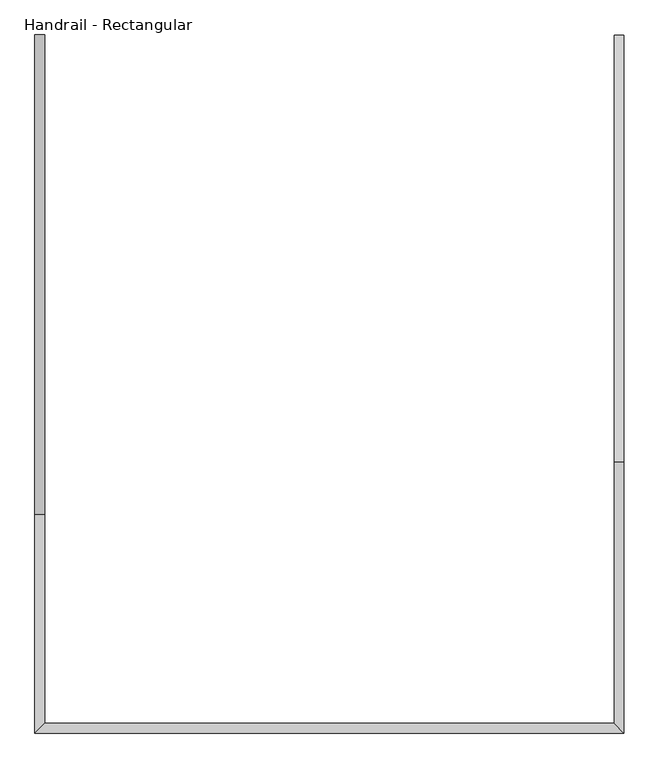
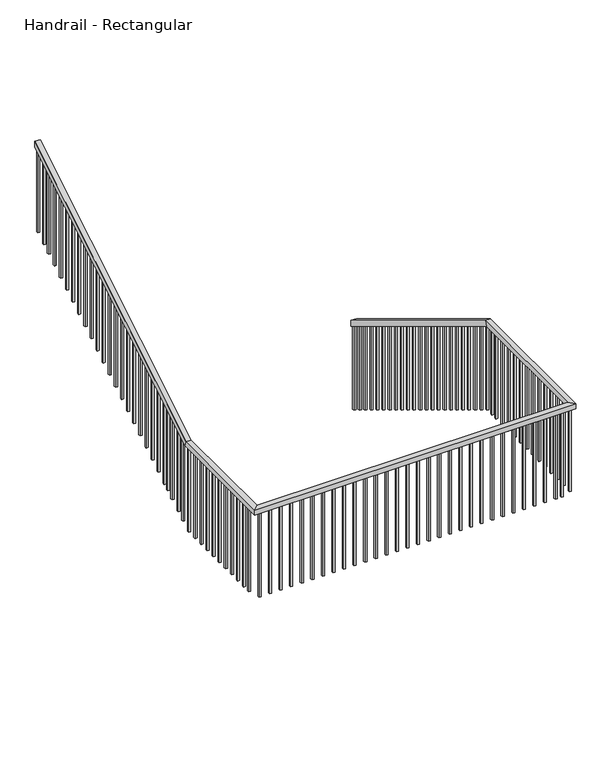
"""IFC4 building model written with IfcOpenShell, lengths in millimetres: railing geometry, Handrail - Rectangular."""

from ifc_helpers import new_model, si_unit, frame, origin, place, context, project, spatial, polyline, outline, extrude, faceted_brep, source, transform, mapped, element, save


def handrail_rectangular_9e17ef01(model_context):
    return source(origin(), model_context, "Body", "SolidModel", [
        faceted_brep([(-22583.8042336, -12204.7769844, 40707.7333333), (-22533.0042336, -12204.7769844, 40707.7333333), (-22533.0042336, -12204.7769844, 40648.3318731), (-22583.8042336, -12204.7769844, 40648.3318731), (-22583.8042336, -14439.9769844, 42062.4), (-22533.0042336, -14439.9769844, 42062.4), (-22533.0042336, -14454.1693938, 42011.6), (-22583.8042336, -14454.1693938, 42011.6), (-22583.8042336, -15811.5769844, 42062.4), (-22533.0042336, -15862.3769844, 42062.4), (-22533.0042336, -15862.3769844, 42011.6), (-22583.8042336, -15811.5769844, 42011.6), (-25569.8917336, -15811.5769844, 42062.4), (-25620.6917336, -15862.3769844, 42062.4), (-25620.6917336, -15862.3769844, 42011.6), (-25569.8917336, -15811.5769844, 42011.6), (-25569.8917336, -14719.3769844, 42062.4), (-25620.6917336, -14719.3769844, 42062.4), (-25620.6917336, -14705.184575, 42011.6), (-25569.8917336, -14705.184575, 42011.6), (-25569.8917336, -12204.7769844, 43586.4), (-25569.8917336, -12204.7769844, 43526.9985397), (-25620.6917336, -12204.7769844, 43526.9985397), (-25620.6917336, -12204.7769844, 43586.4)], [[[0, 1, 2, 3]], [[1, 0, 4, 5]], [[2, 1, 5, 6]], [[3, 2, 6, 7]], [[0, 3, 7, 4]], [[5, 4, 8, 9]], [[6, 5, 9, 10]], [[7, 6, 10, 11]], [[4, 7, 11, 8]], [[9, 8, 12, 13]], [[10, 9, 13, 14]], [[11, 10, 14, 15]], [[8, 11, 15, 12]], [[13, 12, 16, 17]], [[14, 13, 17, 18]], [[15, 14, 18, 19]], [[12, 15, 19, 16]], [[20, 21, 22, 23]], [[17, 16, 20, 23]], [[18, 17, 23, 22]], [[19, 18, 22, 21]], [[16, 19, 21, 20]]]),
        extrude(outline(polyline([(-12204.7769844, 42666.2272727), (-12223.8269844, 42666.2272727), (-12223.8269844, 43515.4530852), (-12204.7769844, 43526.9985397), (-12204.7769844, 42666.2272727)])), frame((-25604.8167336, 0.0, 0.0), z_axis=(1.0, 0.0, 0.0), x_axis=(0.0, 1.0, 0.0)), (0.0, 0.0, 1.0), 19.05),
        extrude(outline(polyline([(-12306.3769844, 42604.6515152), (-12325.4269844, 42604.6515152), (-12325.4269844, 43453.8773276), (-12306.3769844, 43465.4227822), (-12306.3769844, 42604.6515152)])), frame((-25604.8167336, 0.0, 0.0), z_axis=(1.0, 0.0, 0.0), x_axis=(0.0, 1.0, 0.0)), (0.0, 0.0, 1.0), 19.05),
        extrude(outline(polyline([(-12385.7519844, 42556.5454545), (-12404.8019844, 42556.5454545), (-12404.8019844, 43405.771267), (-12385.7519844, 43417.3167216), (-12385.7519844, 42556.5454545)])), frame((-25604.8167336, 0.0, 0.0), z_axis=(1.0, 0.0, 0.0), x_axis=(0.0, 1.0, 0.0)), (0.0, 0.0, 1.0), 19.05),
        extrude(outline(polyline([(-12484.1769844, 42496.8939394), (-12503.2269844, 42496.8939394), (-12503.2269844, 43346.1197519), (-12484.1769844, 43357.6652064), (-12484.1769844, 42496.8939394)])), frame((-25604.8167336, 0.0, 0.0), z_axis=(1.0, 0.0, 0.0), x_axis=(0.0, 1.0, 0.0)), (0.0, 0.0, 1.0), 19.05),
        extrude(outline(polyline([(-12585.7769844, 42435.3181818), (-12604.8269844, 42435.3181818), (-12604.8269844, 43284.5439943), (-12585.7769844, 43296.0894488), (-12585.7769844, 42435.3181818)])), frame((-25604.8167336, 0.0, 0.0), z_axis=(1.0, 0.0, 0.0), x_axis=(0.0, 1.0, 0.0)), (0.0, 0.0, 1.0), 19.05),
        extrude(outline(polyline([(-12687.3769844, 42373.7424242), (-12706.4269844, 42373.7424242), (-12706.4269844, 43222.9682367), (-12687.3769844, 43234.5136913), (-12687.3769844, 42373.7424242)])), frame((-25604.8167336, 0.0, 0.0), z_axis=(1.0, 0.0, 0.0), x_axis=(0.0, 1.0, 0.0)), (0.0, 0.0, 1.0), 19.05),
        extrude(outline(polyline([(-12788.9769844, 42312.1666667), (-12808.0269844, 42312.1666667), (-12808.0269844, 43161.3924791), (-12788.9769844, 43172.9379337), (-12788.9769844, 42312.1666667)])), frame((-25604.8167336, 0.0, 0.0), z_axis=(1.0, 0.0, 0.0), x_axis=(0.0, 1.0, 0.0)), (0.0, 0.0, 1.0), 19.05),
        extrude(outline(polyline([(-12890.5769844, 42250.5909091), (-12909.6269844, 42250.5909091), (-12909.6269844, 43099.8167216), (-12890.5769844, 43111.3621761), (-12890.5769844, 42250.5909091)])), frame((-25604.8167336, 0.0, 0.0), z_axis=(1.0, 0.0, 0.0), x_axis=(0.0, 1.0, 0.0)), (0.0, 0.0, 1.0), 19.05),
        extrude(outline(polyline([(-12992.1769844, 42189.0151515), (-13011.2269844, 42189.0151515), (-13011.2269844, 43038.240964), (-12992.1769844, 43049.7864185), (-12992.1769844, 42189.0151515)])), frame((-25604.8167336, 0.0, 0.0), z_axis=(1.0, 0.0, 0.0), x_axis=(0.0, 1.0, 0.0)), (0.0, 0.0, 1.0), 19.05),
        extrude(outline(polyline([(-13093.7769844, 42127.4393939), (-13112.8269844, 42127.4393939), (-13112.8269844, 42976.6652064), (-13093.7769844, 42988.210661), (-13093.7769844, 42127.4393939)])), frame((-25604.8167336, 0.0, 0.0), z_axis=(1.0, 0.0, 0.0), x_axis=(0.0, 1.0, 0.0)), (0.0, 0.0, 1.0), 19.05),
        extrude(outline(polyline([(-13195.3769844, 42065.8636364), (-13214.4269844, 42065.8636364), (-13214.4269844, 42915.0894488), (-13195.3769844, 42926.6349034), (-13195.3769844, 42065.8636364)])), frame((-25604.8167336, 0.0, 0.0), z_axis=(1.0, 0.0, 0.0), x_axis=(0.0, 1.0, 0.0)), (0.0, 0.0, 1.0), 19.05),
        extrude(outline(polyline([(-13296.9769844, 42004.2878788), (-13316.0269844, 42004.2878788), (-13316.0269844, 42853.5136913), (-13296.9769844, 42865.0591458), (-13296.9769844, 42004.2878788)])), frame((-25604.8167336, 0.0, 0.0), z_axis=(1.0, 0.0, 0.0), x_axis=(0.0, 1.0, 0.0)), (0.0, 0.0, 1.0), 19.05),
        extrude(outline(polyline([(-13398.5769844, 41942.7121212), (-13417.6269844, 41942.7121212), (-13417.6269844, 42791.9379337), (-13398.5769844, 42803.4833882), (-13398.5769844, 41942.7121212)])), frame((-25604.8167336, 0.0, 0.0), z_axis=(1.0, 0.0, 0.0), x_axis=(0.0, 1.0, 0.0)), (0.0, 0.0, 1.0), 19.05),
        extrude(outline(polyline([(-13500.1769844, 41881.1363636), (-13519.2269844, 41881.1363636), (-13519.2269844, 42730.3621761), (-13500.1769844, 42741.9076307), (-13500.1769844, 41881.1363636)])), frame((-25604.8167336, 0.0, 0.0), z_axis=(1.0, 0.0, 0.0), x_axis=(0.0, 1.0, 0.0)), (0.0, 0.0, 1.0), 19.05),
        extrude(outline(polyline([(-13601.7769844, 41819.5606061), (-13620.8269844, 41819.5606061), (-13620.8269844, 42668.7864185), (-13601.7769844, 42680.3318731), (-13601.7769844, 41819.5606061)])), frame((-25604.8167336, 0.0, 0.0), z_axis=(1.0, 0.0, 0.0), x_axis=(0.0, 1.0, 0.0)), (0.0, 0.0, 1.0), 19.05),
        extrude(outline(polyline([(-13703.3769844, 41757.9848485), (-13722.4269844, 41757.9848485), (-13722.4269844, 42607.210661), (-13703.3769844, 42618.7561155), (-13703.3769844, 41757.9848485)])), frame((-25604.8167336, 0.0, 0.0), z_axis=(1.0, 0.0, 0.0), x_axis=(0.0, 1.0, 0.0)), (0.0, 0.0, 1.0), 19.05),
        extrude(outline(polyline([(-13804.9769844, 41696.4090909), (-13824.0269844, 41696.4090909), (-13824.0269844, 42545.6349034), (-13804.9769844, 42557.1803579), (-13804.9769844, 41696.4090909)])), frame((-25604.8167336, 0.0, 0.0), z_axis=(1.0, 0.0, 0.0), x_axis=(0.0, 1.0, 0.0)), (0.0, 0.0, 1.0), 19.05),
        extrude(outline(polyline([(-13906.5769844, 41634.8333333), (-13925.6269844, 41634.8333333), (-13925.6269844, 42484.0591458), (-13906.5769844, 42495.6046004), (-13906.5769844, 41634.8333333)])), frame((-25604.8167336, 0.0, 0.0), z_axis=(1.0, 0.0, 0.0), x_axis=(0.0, 1.0, 0.0)), (0.0, 0.0, 1.0), 19.05),
        extrude(outline(polyline([(-14008.1769844, 41573.2575758), (-14027.2269844, 41573.2575758), (-14027.2269844, 42422.4833882), (-14008.1769844, 42434.0288428), (-14008.1769844, 41573.2575758)])), frame((-25604.8167336, 0.0, 0.0), z_axis=(1.0, 0.0, 0.0), x_axis=(0.0, 1.0, 0.0)), (0.0, 0.0, 1.0), 19.05),
        extrude(outline(polyline([(-14109.7769844, 41511.6818182), (-14128.8269844, 41511.6818182), (-14128.8269844, 42360.9076307), (-14109.7769844, 42372.4530852), (-14109.7769844, 41511.6818182)])), frame((-25604.8167336, 0.0, 0.0), z_axis=(1.0, 0.0, 0.0), x_axis=(0.0, 1.0, 0.0)), (0.0, 0.0, 1.0), 19.05),
        extrude(outline(polyline([(-14211.3769844, 41450.1060606), (-14230.4269844, 41450.1060606), (-14230.4269844, 42299.3318731), (-14211.3769844, 42310.8773276), (-14211.3769844, 41450.1060606)])), frame((-25604.8167336, 0.0, 0.0), z_axis=(1.0, 0.0, 0.0), x_axis=(0.0, 1.0, 0.0)), (0.0, 0.0, 1.0), 19.05),
        extrude(outline(polyline([(-14312.9769844, 41388.530303), (-14332.0269844, 41388.530303), (-14332.0269844, 42237.7561155), (-14312.9769844, 42249.30157), (-14312.9769844, 41388.530303)])), frame((-25604.8167336, 0.0, 0.0), z_axis=(1.0, 0.0, 0.0), x_axis=(0.0, 1.0, 0.0)), (0.0, 0.0, 1.0), 19.05),
        extrude(outline(polyline([(-14366.9519844, 41355.8181818), (-14386.0019844, 41355.8181818), (-14386.0019844, 42205.0439943), (-14366.9519844, 42216.5894488), (-14366.9519844, 41355.8181818)])), frame((-25604.8167336, 0.0, 0.0), z_axis=(1.0, 0.0, 0.0), x_axis=(0.0, 1.0, 0.0)), (0.0, 0.0, 1.0), 19.05),
        extrude(outline(polyline([(-14439.9769844, 41311.5606061), (-14459.0269844, 41311.5606061), (-14459.0269844, 42160.7864185), (-14439.9769844, 42172.3318731), (-14439.9769844, 41311.5606061)])), frame((-25604.8167336, 0.0, 0.0), z_axis=(1.0, 0.0, 0.0), x_axis=(0.0, 1.0, 0.0)), (0.0, 0.0, 1.0), 19.05),
        extrude(outline(polyline([(-14541.5769844, 41249.9848485), (-14560.6269844, 41249.9848485), (-14560.6269844, 42099.210661), (-14541.5769844, 42110.7561155), (-14541.5769844, 41249.9848485)])), frame((-25604.8167336, 0.0, 0.0), z_axis=(1.0, 0.0, 0.0), x_axis=(0.0, 1.0, 0.0)), (0.0, 0.0, 1.0), 19.05),
        extrude(outline(polyline([(-14620.9519844, 41201.8787879), (-14640.0019844, 41201.8787879), (-14640.0019844, 42051.1046004), (-14620.9519844, 42062.6500549), (-14620.9519844, 41201.8787879)])), frame((-25604.8167336, 0.0, 0.0), z_axis=(1.0, 0.0, 0.0), x_axis=(0.0, 1.0, 0.0)), (0.0, 0.0, 1.0), 19.05),
        extrude(outline(polyline([(-25604.8167336, -14738.4269844), (-25604.8167336, -14719.3769844), (-25585.7667336, -14719.3769844), (-25585.7667336, -14738.4269844), (-25604.8167336, -14738.4269844)])), frame((0.0, 0.0, 41148.0), z_axis=(0.0, 0.0, 1.0), x_axis=(1.0, 0.0, 0.0)), (0.0, 0.0, 1.0), 863.6),
        extrude(outline(polyline([(-25604.8167336, -14840.0269844), (-25604.8167336, -14820.9769844), (-25585.7667336, -14820.9769844), (-25585.7667336, -14840.0269844), (-25604.8167336, -14840.0269844)])), frame((0.0, 0.0, 41148.0), z_axis=(0.0, 0.0, 1.0), x_axis=(1.0, 0.0, 0.0)), (0.0, 0.0, 1.0), 863.6),
        extrude(outline(polyline([(-25604.8167336, -14941.6269844), (-25604.8167336, -14922.5769844), (-25585.7667336, -14922.5769844), (-25585.7667336, -14941.6269844), (-25604.8167336, -14941.6269844)])), frame((0.0, 0.0, 41148.0), z_axis=(0.0, 0.0, 1.0), x_axis=(1.0, 0.0, 0.0)), (0.0, 0.0, 1.0), 863.6),
        extrude(outline(polyline([(-25604.8167336, -15043.2269844), (-25604.8167336, -15024.1769844), (-25585.7667336, -15024.1769844), (-25585.7667336, -15043.2269844), (-25604.8167336, -15043.2269844)])), frame((0.0, 0.0, 41148.0), z_axis=(0.0, 0.0, 1.0), x_axis=(1.0, 0.0, 0.0)), (0.0, 0.0, 1.0), 863.6),
        extrude(outline(polyline([(-25604.8167336, -15144.8269844), (-25604.8167336, -15125.7769844), (-25585.7667336, -15125.7769844), (-25585.7667336, -15144.8269844), (-25604.8167336, -15144.8269844)])), frame((0.0, 0.0, 41148.0), z_axis=(0.0, 0.0, 1.0), x_axis=(1.0, 0.0, 0.0)), (0.0, 0.0, 1.0), 863.6),
        extrude(outline(polyline([(-25604.8167336, -15246.4269844), (-25604.8167336, -15227.3769844), (-25585.7667336, -15227.3769844), (-25585.7667336, -15246.4269844), (-25604.8167336, -15246.4269844)])), frame((0.0, 0.0, 41148.0), z_axis=(0.0, 0.0, 1.0), x_axis=(1.0, 0.0, 0.0)), (0.0, 0.0, 1.0), 863.6),
        extrude(outline(polyline([(-25604.8167336, -15348.0269844), (-25604.8167336, -15328.9769844), (-25585.7667336, -15328.9769844), (-25585.7667336, -15348.0269844), (-25604.8167336, -15348.0269844)])), frame((0.0, 0.0, 41148.0), z_axis=(0.0, 0.0, 1.0), x_axis=(1.0, 0.0, 0.0)), (0.0, 0.0, 1.0), 863.6),
        extrude(outline(polyline([(-25604.8167336, -15449.6269844), (-25604.8167336, -15430.5769844), (-25585.7667336, -15430.5769844), (-25585.7667336, -15449.6269844), (-25604.8167336, -15449.6269844)])), frame((0.0, 0.0, 41148.0), z_axis=(0.0, 0.0, 1.0), x_axis=(1.0, 0.0, 0.0)), (0.0, 0.0, 1.0), 863.6),
        extrude(outline(polyline([(-25604.8167336, -15551.2269844), (-25604.8167336, -15532.1769844), (-25585.7667336, -15532.1769844), (-25585.7667336, -15551.2269844), (-25604.8167336, -15551.2269844)])), frame((0.0, 0.0, 41148.0), z_axis=(0.0, 0.0, 1.0), x_axis=(1.0, 0.0, 0.0)), (0.0, 0.0, 1.0), 863.6),
        extrude(outline(polyline([(-25604.8167336, -15652.8269844), (-25604.8167336, -15633.7769844), (-25585.7667336, -15633.7769844), (-25585.7667336, -15652.8269844), (-25604.8167336, -15652.8269844)])), frame((0.0, 0.0, 41148.0), z_axis=(0.0, 0.0, 1.0), x_axis=(1.0, 0.0, 0.0)), (0.0, 0.0, 1.0), 863.6),
        extrude(outline(polyline([(-25604.8167336, -15732.2019844), (-25604.8167336, -15713.1519844), (-25585.7667336, -15713.1519844), (-25585.7667336, -15732.2019844), (-25604.8167336, -15732.2019844)])), frame((0.0, 0.0, 41148.0), z_axis=(0.0, 0.0, 1.0), x_axis=(1.0, 0.0, 0.0)), (0.0, 0.0, 1.0), 863.6),
        extrude(outline(polyline([(-25550.8417336, -15846.5019844), (-25569.8917336, -15846.5019844), (-25569.8917336, -15827.4519844), (-25550.8417336, -15827.4519844), (-25550.8417336, -15846.5019844)])), frame((0.0, 0.0, 41148.0), z_axis=(0.0, 0.0, 1.0), x_axis=(1.0, 0.0, 0.0)), (0.0, 0.0, 1.0), 863.6),
        extrude(outline(polyline([(-25449.2417336, -15846.5019844), (-25468.2917336, -15846.5019844), (-25468.2917336, -15827.4519844), (-25449.2417336, -15827.4519844), (-25449.2417336, -15846.5019844)])), frame((0.0, 0.0, 41148.0), z_axis=(0.0, 0.0, 1.0), x_axis=(1.0, 0.0, 0.0)), (0.0, 0.0, 1.0), 863.6),
        extrude(outline(polyline([(-25347.6417336, -15846.5019844), (-25366.6917336, -15846.5019844), (-25366.6917336, -15827.4519844), (-25347.6417336, -15827.4519844), (-25347.6417336, -15846.5019844)])), frame((0.0, 0.0, 41148.0), z_axis=(0.0, 0.0, 1.0), x_axis=(1.0, 0.0, 0.0)), (0.0, 0.0, 1.0), 863.6),
        extrude(outline(polyline([(-25246.0417336, -15846.5019844), (-25265.0917336, -15846.5019844), (-25265.0917336, -15827.4519844), (-25246.0417336, -15827.4519844), (-25246.0417336, -15846.5019844)])), frame((0.0, 0.0, 41148.0), z_axis=(0.0, 0.0, 1.0), x_axis=(1.0, 0.0, 0.0)), (0.0, 0.0, 1.0), 863.6),
        extrude(outline(polyline([(-25144.4417336, -15846.5019844), (-25163.4917336, -15846.5019844), (-25163.4917336, -15827.4519844), (-25144.4417336, -15827.4519844), (-25144.4417336, -15846.5019844)])), frame((0.0, 0.0, 41148.0), z_axis=(0.0, 0.0, 1.0), x_axis=(1.0, 0.0, 0.0)), (0.0, 0.0, 1.0), 863.6),
        extrude(outline(polyline([(-25042.8417336, -15846.5019844), (-25061.8917336, -15846.5019844), (-25061.8917336, -15827.4519844), (-25042.8417336, -15827.4519844), (-25042.8417336, -15846.5019844)])), frame((0.0, 0.0, 41148.0), z_axis=(0.0, 0.0, 1.0), x_axis=(1.0, 0.0, 0.0)), (0.0, 0.0, 1.0), 863.6),
        extrude(outline(polyline([(-24941.2417336, -15846.5019844), (-24960.2917336, -15846.5019844), (-24960.2917336, -15827.4519844), (-24941.2417336, -15827.4519844), (-24941.2417336, -15846.5019844)])), frame((0.0, 0.0, 41148.0), z_axis=(0.0, 0.0, 1.0), x_axis=(1.0, 0.0, 0.0)), (0.0, 0.0, 1.0), 863.6),
        extrude(outline(polyline([(-24839.6417336, -15846.5019844), (-24858.6917336, -15846.5019844), (-24858.6917336, -15827.4519844), (-24839.6417336, -15827.4519844), (-24839.6417336, -15846.5019844)])), frame((0.0, 0.0, 41148.0), z_axis=(0.0, 0.0, 1.0), x_axis=(1.0, 0.0, 0.0)), (0.0, 0.0, 1.0), 863.6),
        extrude(outline(polyline([(-24738.0417336, -15846.5019844), (-24757.0917336, -15846.5019844), (-24757.0917336, -15827.4519844), (-24738.0417336, -15827.4519844), (-24738.0417336, -15846.5019844)])), frame((0.0, 0.0, 41148.0), z_axis=(0.0, 0.0, 1.0), x_axis=(1.0, 0.0, 0.0)), (0.0, 0.0, 1.0), 863.6),
        extrude(outline(polyline([(-24636.4417336, -15846.5019844), (-24655.4917336, -15846.5019844), (-24655.4917336, -15827.4519844), (-24636.4417336, -15827.4519844), (-24636.4417336, -15846.5019844)])), frame((0.0, 0.0, 41148.0), z_axis=(0.0, 0.0, 1.0), x_axis=(1.0, 0.0, 0.0)), (0.0, 0.0, 1.0), 863.6),
        extrude(outline(polyline([(-24534.8417336, -15846.5019844), (-24553.8917336, -15846.5019844), (-24553.8917336, -15827.4519844), (-24534.8417336, -15827.4519844), (-24534.8417336, -15846.5019844)])), frame((0.0, 0.0, 41148.0), z_axis=(0.0, 0.0, 1.0), x_axis=(1.0, 0.0, 0.0)), (0.0, 0.0, 1.0), 863.6),
        extrude(outline(polyline([(-24433.2417336, -15846.5019844), (-24452.2917336, -15846.5019844), (-24452.2917336, -15827.4519844), (-24433.2417336, -15827.4519844), (-24433.2417336, -15846.5019844)])), frame((0.0, 0.0, 41148.0), z_axis=(0.0, 0.0, 1.0), x_axis=(1.0, 0.0, 0.0)), (0.0, 0.0, 1.0), 863.6),
        extrude(outline(polyline([(-24331.6417336, -15846.5019844), (-24350.6917336, -15846.5019844), (-24350.6917336, -15827.4519844), (-24331.6417336, -15827.4519844), (-24331.6417336, -15846.5019844)])), frame((0.0, 0.0, 41148.0), z_axis=(0.0, 0.0, 1.0), x_axis=(1.0, 0.0, 0.0)), (0.0, 0.0, 1.0), 863.6),
        extrude(outline(polyline([(-24230.0417336, -15846.5019844), (-24249.0917336, -15846.5019844), (-24249.0917336, -15827.4519844), (-24230.0417336, -15827.4519844), (-24230.0417336, -15846.5019844)])), frame((0.0, 0.0, 41148.0), z_axis=(0.0, 0.0, 1.0), x_axis=(1.0, 0.0, 0.0)), (0.0, 0.0, 1.0), 863.6),
        extrude(outline(polyline([(-24128.4417336, -15846.5019844), (-24147.4917336, -15846.5019844), (-24147.4917336, -15827.4519844), (-24128.4417336, -15827.4519844), (-24128.4417336, -15846.5019844)])), frame((0.0, 0.0, 41148.0), z_axis=(0.0, 0.0, 1.0), x_axis=(1.0, 0.0, 0.0)), (0.0, 0.0, 1.0), 863.6),
        extrude(outline(polyline([(-24026.8417336, -15846.5019844), (-24045.8917336, -15846.5019844), (-24045.8917336, -15827.4519844), (-24026.8417336, -15827.4519844), (-24026.8417336, -15846.5019844)])), frame((0.0, 0.0, 41148.0), z_axis=(0.0, 0.0, 1.0), x_axis=(1.0, 0.0, 0.0)), (0.0, 0.0, 1.0), 863.6),
        extrude(outline(polyline([(-23925.2417336, -15846.5019844), (-23944.2917336, -15846.5019844), (-23944.2917336, -15827.4519844), (-23925.2417336, -15827.4519844), (-23925.2417336, -15846.5019844)])), frame((0.0, 0.0, 41148.0), z_axis=(0.0, 0.0, 1.0), x_axis=(1.0, 0.0, 0.0)), (0.0, 0.0, 1.0), 863.6),
        extrude(outline(polyline([(-23823.6417336, -15846.5019844), (-23842.6917336, -15846.5019844), (-23842.6917336, -15827.4519844), (-23823.6417336, -15827.4519844), (-23823.6417336, -15846.5019844)])), frame((0.0, 0.0, 41148.0), z_axis=(0.0, 0.0, 1.0), x_axis=(1.0, 0.0, 0.0)), (0.0, 0.0, 1.0), 863.6),
        extrude(outline(polyline([(-23722.0417336, -15846.5019844), (-23741.0917336, -15846.5019844), (-23741.0917336, -15827.4519844), (-23722.0417336, -15827.4519844), (-23722.0417336, -15846.5019844)])), frame((0.0, 0.0, 41148.0), z_axis=(0.0, 0.0, 1.0), x_axis=(1.0, 0.0, 0.0)), (0.0, 0.0, 1.0), 863.6),
        extrude(outline(polyline([(-23620.4417336, -15846.5019844), (-23639.4917336, -15846.5019844), (-23639.4917336, -15827.4519844), (-23620.4417336, -15827.4519844), (-23620.4417336, -15846.5019844)])), frame((0.0, 0.0, 41148.0), z_axis=(0.0, 0.0, 1.0), x_axis=(1.0, 0.0, 0.0)), (0.0, 0.0, 1.0), 863.6),
        extrude(outline(polyline([(-23518.8417336, -15846.5019844), (-23537.8917336, -15846.5019844), (-23537.8917336, -15827.4519844), (-23518.8417336, -15827.4519844), (-23518.8417336, -15846.5019844)])), frame((0.0, 0.0, 41148.0), z_axis=(0.0, 0.0, 1.0), x_axis=(1.0, 0.0, 0.0)), (0.0, 0.0, 1.0), 863.6),
        extrude(outline(polyline([(-23417.2417336, -15846.5019844), (-23436.2917336, -15846.5019844), (-23436.2917336, -15827.4519844), (-23417.2417336, -15827.4519844), (-23417.2417336, -15846.5019844)])), frame((0.0, 0.0, 41148.0), z_axis=(0.0, 0.0, 1.0), x_axis=(1.0, 0.0, 0.0)), (0.0, 0.0, 1.0), 863.6),
        extrude(outline(polyline([(-23315.6417336, -15846.5019844), (-23334.6917336, -15846.5019844), (-23334.6917336, -15827.4519844), (-23315.6417336, -15827.4519844), (-23315.6417336, -15846.5019844)])), frame((0.0, 0.0, 41148.0), z_axis=(0.0, 0.0, 1.0), x_axis=(1.0, 0.0, 0.0)), (0.0, 0.0, 1.0), 863.6),
        extrude(outline(polyline([(-23214.0417336, -15846.5019844), (-23233.0917336, -15846.5019844), (-23233.0917336, -15827.4519844), (-23214.0417336, -15827.4519844), (-23214.0417336, -15846.5019844)])), frame((0.0, 0.0, 41148.0), z_axis=(0.0, 0.0, 1.0), x_axis=(1.0, 0.0, 0.0)), (0.0, 0.0, 1.0), 863.6),
        extrude(outline(polyline([(-23112.4417336, -15846.5019844), (-23131.4917336, -15846.5019844), (-23131.4917336, -15827.4519844), (-23112.4417336, -15827.4519844), (-23112.4417336, -15846.5019844)])), frame((0.0, 0.0, 41148.0), z_axis=(0.0, 0.0, 1.0), x_axis=(1.0, 0.0, 0.0)), (0.0, 0.0, 1.0), 863.6),
        extrude(outline(polyline([(-23010.8417336, -15846.5019844), (-23029.8917336, -15846.5019844), (-23029.8917336, -15827.4519844), (-23010.8417336, -15827.4519844), (-23010.8417336, -15846.5019844)])), frame((0.0, 0.0, 41148.0), z_axis=(0.0, 0.0, 1.0), x_axis=(1.0, 0.0, 0.0)), (0.0, 0.0, 1.0), 863.6),
        extrude(outline(polyline([(-22909.2417336, -15846.5019844), (-22928.2917336, -15846.5019844), (-22928.2917336, -15827.4519844), (-22909.2417336, -15827.4519844), (-22909.2417336, -15846.5019844)])), frame((0.0, 0.0, 41148.0), z_axis=(0.0, 0.0, 1.0), x_axis=(1.0, 0.0, 0.0)), (0.0, 0.0, 1.0), 863.6),
        extrude(outline(polyline([(-22807.6417336, -15846.5019844), (-22826.6917336, -15846.5019844), (-22826.6917336, -15827.4519844), (-22807.6417336, -15827.4519844), (-22807.6417336, -15846.5019844)])), frame((0.0, 0.0, 41148.0), z_axis=(0.0, 0.0, 1.0), x_axis=(1.0, 0.0, 0.0)), (0.0, 0.0, 1.0), 863.6),
        extrude(outline(polyline([(-22706.0417336, -15846.5019844), (-22725.0917336, -15846.5019844), (-22725.0917336, -15827.4519844), (-22706.0417336, -15827.4519844), (-22706.0417336, -15846.5019844)])), frame((0.0, 0.0, 41148.0), z_axis=(0.0, 0.0, 1.0), x_axis=(1.0, 0.0, 0.0)), (0.0, 0.0, 1.0), 863.6),
        extrude(outline(polyline([(-22644.9229836, -15846.5019844), (-22663.9729836, -15846.5019844), (-22663.9729836, -15827.4519844), (-22644.9229836, -15827.4519844), (-22644.9229836, -15846.5019844)])), frame((0.0, 0.0, 41148.0), z_axis=(0.0, 0.0, 1.0), x_axis=(1.0, 0.0, 0.0)), (0.0, 0.0, 1.0), 863.6),
        extrude(outline(polyline([(-22548.8792336, -15792.5269844), (-22548.8792336, -15811.5769844), (-22567.9292336, -15811.5769844), (-22567.9292336, -15792.5269844), (-22548.8792336, -15792.5269844)])), frame((0.0, 0.0, 41148.0), z_axis=(0.0, 0.0, 1.0), x_axis=(1.0, 0.0, 0.0)), (0.0, 0.0, 1.0), 863.6),
        extrude(outline(polyline([(-22548.8792336, -15690.9269844), (-22548.8792336, -15709.9769844), (-22567.9292336, -15709.9769844), (-22567.9292336, -15690.9269844), (-22548.8792336, -15690.9269844)])), frame((0.0, 0.0, 41148.0), z_axis=(0.0, 0.0, 1.0), x_axis=(1.0, 0.0, 0.0)), (0.0, 0.0, 1.0), 863.6),
        extrude(outline(polyline([(-22548.8792336, -15589.3269844), (-22548.8792336, -15608.3769844), (-22567.9292336, -15608.3769844), (-22567.9292336, -15589.3269844), (-22548.8792336, -15589.3269844)])), frame((0.0, 0.0, 41148.0), z_axis=(0.0, 0.0, 1.0), x_axis=(1.0, 0.0, 0.0)), (0.0, 0.0, 1.0), 863.6),
        extrude(outline(polyline([(-22548.8792336, -15487.7269844), (-22548.8792336, -15506.7769844), (-22567.9292336, -15506.7769844), (-22567.9292336, -15487.7269844), (-22548.8792336, -15487.7269844)])), frame((0.0, 0.0, 41148.0), z_axis=(0.0, 0.0, 1.0), x_axis=(1.0, 0.0, 0.0)), (0.0, 0.0, 1.0), 863.6),
        extrude(outline(polyline([(-22548.8792336, -15386.1269844), (-22548.8792336, -15405.1769844), (-22567.9292336, -15405.1769844), (-22567.9292336, -15386.1269844), (-22548.8792336, -15386.1269844)])), frame((0.0, 0.0, 41148.0), z_axis=(0.0, 0.0, 1.0), x_axis=(1.0, 0.0, 0.0)), (0.0, 0.0, 1.0), 863.6),
        extrude(outline(polyline([(-22548.8792336, -15284.5269844), (-22548.8792336, -15303.5769844), (-22567.9292336, -15303.5769844), (-22567.9292336, -15284.5269844), (-22548.8792336, -15284.5269844)])), frame((0.0, 0.0, 41148.0), z_axis=(0.0, 0.0, 1.0), x_axis=(1.0, 0.0, 0.0)), (0.0, 0.0, 1.0), 863.6),
        extrude(outline(polyline([(-22548.8792336, -15182.9269844), (-22548.8792336, -15201.9769844), (-22567.9292336, -15201.9769844), (-22567.9292336, -15182.9269844), (-22548.8792336, -15182.9269844)])), frame((0.0, 0.0, 41148.0), z_axis=(0.0, 0.0, 1.0), x_axis=(1.0, 0.0, 0.0)), (0.0, 0.0, 1.0), 863.6),
        extrude(outline(polyline([(-22548.8792336, -15081.3269844), (-22548.8792336, -15100.3769844), (-22567.9292336, -15100.3769844), (-22567.9292336, -15081.3269844), (-22548.8792336, -15081.3269844)])), frame((0.0, 0.0, 41148.0), z_axis=(0.0, 0.0, 1.0), x_axis=(1.0, 0.0, 0.0)), (0.0, 0.0, 1.0), 863.6),
        extrude(outline(polyline([(-22548.8792336, -14979.7269844), (-22548.8792336, -14998.7769844), (-22567.9292336, -14998.7769844), (-22567.9292336, -14979.7269844), (-22548.8792336, -14979.7269844)])), frame((0.0, 0.0, 41148.0), z_axis=(0.0, 0.0, 1.0), x_axis=(1.0, 0.0, 0.0)), (0.0, 0.0, 1.0), 863.6),
        extrude(outline(polyline([(-22548.8792336, -14878.1269844), (-22548.8792336, -14897.1769844), (-22567.9292336, -14897.1769844), (-22567.9292336, -14878.1269844), (-22548.8792336, -14878.1269844)])), frame((0.0, 0.0, 41148.0), z_axis=(0.0, 0.0, 1.0), x_axis=(1.0, 0.0, 0.0)), (0.0, 0.0, 1.0), 863.6),
        extrude(outline(polyline([(-22548.8792336, -14776.5269844), (-22548.8792336, -14795.5769844), (-22567.9292336, -14795.5769844), (-22567.9292336, -14776.5269844), (-22548.8792336, -14776.5269844)])), frame((0.0, 0.0, 41148.0), z_axis=(0.0, 0.0, 1.0), x_axis=(1.0, 0.0, 0.0)), (0.0, 0.0, 1.0), 863.6),
        extrude(outline(polyline([(-22548.8792336, -14674.9269844), (-22548.8792336, -14693.9769844), (-22567.9292336, -14693.9769844), (-22567.9292336, -14674.9269844), (-22548.8792336, -14674.9269844)])), frame((0.0, 0.0, 41148.0), z_axis=(0.0, 0.0, 1.0), x_axis=(1.0, 0.0, 0.0)), (0.0, 0.0, 1.0), 863.6),
        extrude(outline(polyline([(-22548.8792336, -14573.3269844), (-22548.8792336, -14592.3769844), (-22567.9292336, -14592.3769844), (-22567.9292336, -14573.3269844), (-22548.8792336, -14573.3269844)])), frame((0.0, 0.0, 41148.0), z_axis=(0.0, 0.0, 1.0), x_axis=(1.0, 0.0, 0.0)), (0.0, 0.0, 1.0), 863.6),
        extrude(outline(polyline([(-22548.8792336, -14506.6519844), (-22548.8792336, -14525.7019844), (-22567.9292336, -14525.7019844), (-22567.9292336, -14506.6519844), (-22548.8792336, -14506.6519844)])), frame((0.0, 0.0, 41148.0), z_axis=(0.0, 0.0, 1.0), x_axis=(1.0, 0.0, 0.0)), (0.0, 0.0, 1.0), 863.6),
        extrude(outline(polyline([(-14420.9269844, 41142.2272727), (-14439.9769844, 41142.2272727), (-14439.9769844, 42002.9985397), (-14420.9269844, 41991.4530852), (-14420.9269844, 41142.2272727)])), frame((-22567.9292336, 0.0, 0.0), z_axis=(1.0, 0.0, 0.0), x_axis=(0.0, 1.0, 0.0)), (0.0, 0.0, 1.0), 19.05),
        extrude(outline(polyline([(-14319.3269844, 41080.6515152), (-14338.3769844, 41080.6515152), (-14338.3769844, 41941.4227822), (-14319.3269844, 41929.8773276), (-14319.3269844, 41080.6515152)])), frame((-22567.9292336, 0.0, 0.0), z_axis=(1.0, 0.0, 0.0), x_axis=(0.0, 1.0, 0.0)), (0.0, 0.0, 1.0), 19.05),
        extrude(outline(polyline([(-14217.7269844, 41019.0757576), (-14236.7769844, 41019.0757576), (-14236.7769844, 41879.8470246), (-14217.7269844, 41868.30157), (-14217.7269844, 41019.0757576)])), frame((-22567.9292336, 0.0, 0.0), z_axis=(1.0, 0.0, 0.0), x_axis=(0.0, 1.0, 0.0)), (0.0, 0.0, 1.0), 19.05),
        extrude(outline(polyline([(-14116.1269844, 40957.5), (-14135.1769844, 40957.5), (-14135.1769844, 41818.271267), (-14116.1269844, 41806.7258125), (-14116.1269844, 40957.5)])), frame((-22567.9292336, 0.0, 0.0), z_axis=(1.0, 0.0, 0.0), x_axis=(0.0, 1.0, 0.0)), (0.0, 0.0, 1.0), 19.05),
        extrude(outline(polyline([(-14014.5269844, 40895.9242424), (-14033.5769844, 40895.9242424), (-14033.5769844, 41756.6955094), (-14014.5269844, 41745.1500549), (-14014.5269844, 40895.9242424)])), frame((-22567.9292336, 0.0, 0.0), z_axis=(1.0, 0.0, 0.0), x_axis=(0.0, 1.0, 0.0)), (0.0, 0.0, 1.0), 19.05),
        extrude(outline(polyline([(-13912.9269844, 40834.3484848), (-13931.9769844, 40834.3484848), (-13931.9769844, 41695.1197519), (-13912.9269844, 41683.5742973), (-13912.9269844, 40834.3484848)])), frame((-22567.9292336, 0.0, 0.0), z_axis=(1.0, 0.0, 0.0), x_axis=(0.0, 1.0, 0.0)), (0.0, 0.0, 1.0), 19.05),
        extrude(outline(polyline([(-13811.3269844, 40772.7727273), (-13830.3769844, 40772.7727273), (-13830.3769844, 41633.5439943), (-13811.3269844, 41621.9985397), (-13811.3269844, 40772.7727273)])), frame((-22567.9292336, 0.0, 0.0), z_axis=(1.0, 0.0, 0.0), x_axis=(0.0, 1.0, 0.0)), (0.0, 0.0, 1.0), 19.05),
        extrude(outline(polyline([(-13709.7269844, 40711.1969697), (-13728.7769844, 40711.1969697), (-13728.7769844, 41571.9682367), (-13709.7269844, 41560.4227822), (-13709.7269844, 40711.1969697)])), frame((-22567.9292336, 0.0, 0.0), z_axis=(1.0, 0.0, 0.0), x_axis=(0.0, 1.0, 0.0)), (0.0, 0.0, 1.0), 19.05),
        extrude(outline(polyline([(-13608.1269844, 40649.6212121), (-13627.1769844, 40649.6212121), (-13627.1769844, 41510.3924791), (-13608.1269844, 41498.8470246), (-13608.1269844, 40649.6212121)])), frame((-22567.9292336, 0.0, 0.0), z_axis=(1.0, 0.0, 0.0), x_axis=(0.0, 1.0, 0.0)), (0.0, 0.0, 1.0), 19.05),
        extrude(outline(polyline([(-13506.5269844, 40588.0454545), (-13525.5769844, 40588.0454545), (-13525.5769844, 41448.8167216), (-13506.5269844, 41437.271267), (-13506.5269844, 40588.0454545)])), frame((-22567.9292336, 0.0, 0.0), z_axis=(1.0, 0.0, 0.0), x_axis=(0.0, 1.0, 0.0)), (0.0, 0.0, 1.0), 19.05),
        extrude(outline(polyline([(-13404.9269844, 40526.469697), (-13423.9769844, 40526.469697), (-13423.9769844, 41387.240964), (-13404.9269844, 41375.6955094), (-13404.9269844, 40526.469697)])), frame((-22567.9292336, 0.0, 0.0), z_axis=(1.0, 0.0, 0.0), x_axis=(0.0, 1.0, 0.0)), (0.0, 0.0, 1.0), 19.05),
        extrude(outline(polyline([(-13303.3269844, 40464.8939394), (-13322.3769844, 40464.8939394), (-13322.3769844, 41325.6652064), (-13303.3269844, 41314.1197519), (-13303.3269844, 40464.8939394)])), frame((-22567.9292336, 0.0, 0.0), z_axis=(1.0, 0.0, 0.0), x_axis=(0.0, 1.0, 0.0)), (0.0, 0.0, 1.0), 19.05),
        extrude(outline(polyline([(-13201.7269844, 40403.3181818), (-13220.7769844, 40403.3181818), (-13220.7769844, 41264.0894488), (-13201.7269844, 41252.5439943), (-13201.7269844, 40403.3181818)])), frame((-22567.9292336, 0.0, 0.0), z_axis=(1.0, 0.0, 0.0), x_axis=(0.0, 1.0, 0.0)), (0.0, 0.0, 1.0), 19.05),
        extrude(outline(polyline([(-13100.1269844, 40341.7424242), (-13119.1769844, 40341.7424242), (-13119.1769844, 41202.5136913), (-13100.1269844, 41190.9682367), (-13100.1269844, 40341.7424242)])), frame((-22567.9292336, 0.0, 0.0), z_axis=(1.0, 0.0, 0.0), x_axis=(0.0, 1.0, 0.0)), (0.0, 0.0, 1.0), 19.05),
        extrude(outline(polyline([(-12998.5269844, 40280.1666667), (-13017.5769844, 40280.1666667), (-13017.5769844, 41140.9379337), (-12998.5269844, 41129.3924791), (-12998.5269844, 40280.1666667)])), frame((-22567.9292336, 0.0, 0.0), z_axis=(1.0, 0.0, 0.0), x_axis=(0.0, 1.0, 0.0)), (0.0, 0.0, 1.0), 19.05),
        extrude(outline(polyline([(-12896.9269844, 40218.5909091), (-12915.9769844, 40218.5909091), (-12915.9769844, 41079.3621761), (-12896.9269844, 41067.8167216), (-12896.9269844, 40218.5909091)])), frame((-22567.9292336, 0.0, 0.0), z_axis=(1.0, 0.0, 0.0), x_axis=(0.0, 1.0, 0.0)), (0.0, 0.0, 1.0), 19.05),
        extrude(outline(polyline([(-12795.3269844, 40157.0151515), (-12814.3769844, 40157.0151515), (-12814.3769844, 41017.7864185), (-12795.3269844, 41006.240964), (-12795.3269844, 40157.0151515)])), frame((-22567.9292336, 0.0, 0.0), z_axis=(1.0, 0.0, 0.0), x_axis=(0.0, 1.0, 0.0)), (0.0, 0.0, 1.0), 19.05),
        extrude(outline(polyline([(-12693.7269844, 40095.4393939), (-12712.7769844, 40095.4393939), (-12712.7769844, 40956.210661), (-12693.7269844, 40944.6652064), (-12693.7269844, 40095.4393939)])), frame((-22567.9292336, 0.0, 0.0), z_axis=(1.0, 0.0, 0.0), x_axis=(0.0, 1.0, 0.0)), (0.0, 0.0, 1.0), 19.05),
        extrude(outline(polyline([(-12592.1269844, 40033.8636364), (-12611.1769844, 40033.8636364), (-12611.1769844, 40894.6349034), (-12592.1269844, 40883.0894488), (-12592.1269844, 40033.8636364)])), frame((-22567.9292336, 0.0, 0.0), z_axis=(1.0, 0.0, 0.0), x_axis=(0.0, 1.0, 0.0)), (0.0, 0.0, 1.0), 19.05),
        extrude(outline(polyline([(-12490.5269844, 39972.2878788), (-12509.5769844, 39972.2878788), (-12509.5769844, 40833.0591458), (-12490.5269844, 40821.5136913), (-12490.5269844, 39972.2878788)])), frame((-22567.9292336, 0.0, 0.0), z_axis=(1.0, 0.0, 0.0), x_axis=(0.0, 1.0, 0.0)), (0.0, 0.0, 1.0), 19.05),
        extrude(outline(polyline([(-12388.9269844, 39910.7121212), (-12407.9769844, 39910.7121212), (-12407.9769844, 40771.4833882), (-12388.9269844, 40759.9379337), (-12388.9269844, 39910.7121212)])), frame((-22567.9292336, 0.0, 0.0), z_axis=(1.0, 0.0, 0.0), x_axis=(0.0, 1.0, 0.0)), (0.0, 0.0, 1.0), 19.05),
        extrude(outline(polyline([(-12296.8519844, 39854.9090909), (-12315.9019844, 39854.9090909), (-12315.9019844, 40715.6803579), (-12296.8519844, 40704.1349034), (-12296.8519844, 39854.9090909)])), frame((-22567.9292336, 0.0, 0.0), z_axis=(1.0, 0.0, 0.0), x_axis=(0.0, 1.0, 0.0)), (0.0, 0.0, 1.0), 19.05),
        extrude(outline(polyline([(-12204.7769844, 39799.1060606), (-12223.8269844, 39799.1060606), (-12223.8269844, 40659.8773276), (-12204.7769844, 40648.3318731), (-12204.7769844, 39799.1060606)])), frame((-22567.9292336, 0.0, 0.0), z_axis=(1.0, 0.0, 0.0), x_axis=(0.0, 1.0, 0.0)), (0.0, 0.0, 1.0), 19.05),
    ])


if __name__ == "__main__":
    model = new_model("IFC4")
    model_context = context("Model", 3, world=origin())
    ifc_project = project(units=[si_unit("LENGTHUNIT", "METRE", prefix="MILLI")], contexts=[model_context])
    site = spatial("IfcSite", under=ifc_project)
    building = spatial("IfcBuilding", under=site)
    placement = place(None, origin())
    handrail_rectangular_shape = handrail_rectangular_9e17ef01(model_context)
    element("IfcRailing", 1, ObjectType="Handrail - Rectangular", at=placement, inside=building, context=model_context, shape_type="MappedRepresentation", body=[
        mapped(handrail_rectangular_shape, transform((0.0, 0.0, 0.0), x_axis=(1.0, 0.0, 0.0), y_axis=(0.0, 1.0, 0.0), z_axis=(0.0, 0.0, 1.0))),
    ])
    save(model, "model.ifc")
